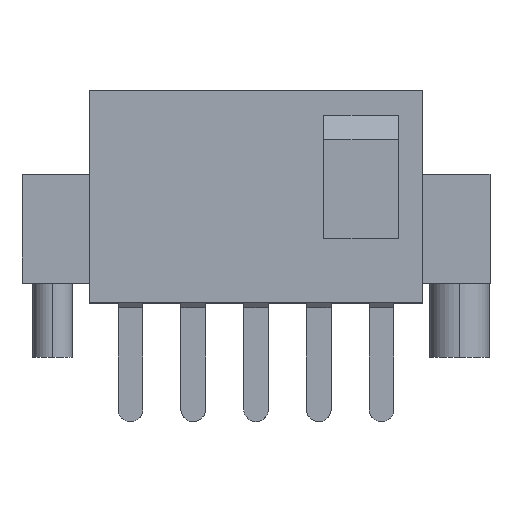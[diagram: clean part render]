
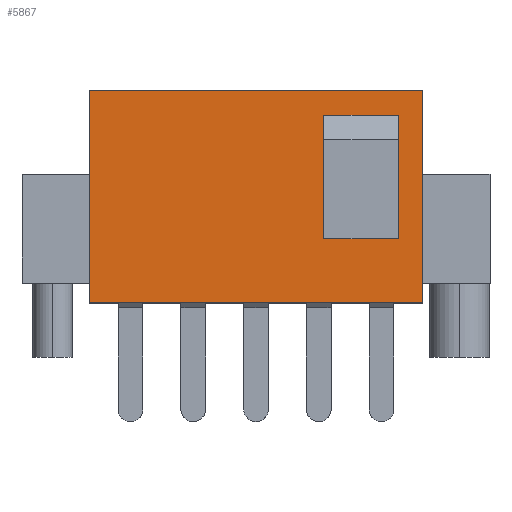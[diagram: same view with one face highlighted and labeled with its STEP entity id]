
A CAD part, top view. The second image highlights one B-rep face of the part: STEP entity #5867.
In plain terms, the highlighted planar face has unit normal (0, 0, 1).
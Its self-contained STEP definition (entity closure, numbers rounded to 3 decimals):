
#382 = LINE ( 'NONE', #7896, #5735 ) ;
#529 = DIRECTION ( 'NONE',  ( 0., 0., 1. ) ) ;
#833 = CARTESIAN_POINT ( 'NONE',  ( -1.27, 0., 0. ) ) ;
#865 = LINE ( 'NONE', #1233, #7560 ) ;
#911 = AXIS2_PLACEMENT_3D ( 'NONE', #6265, #529, #2403 ) ;
#1011 = DIRECTION ( 'NONE',  ( 0., 1., 0. ) ) ;
#1017 = ORIENTED_EDGE ( 'NONE', *, *, #1896, .T. ) ;
#1233 = CARTESIAN_POINT ( 'NONE',  ( 3.48, 1.3, 0. ) ) ;
#1383 = EDGE_CURVE ( 'NONE', #3941, #3155, #4018, .T. ) ;
#1415 = EDGE_LOOP ( 'NONE', ( #6039, #1017, #4004, #7696 ) ) ;
#1517 = CARTESIAN_POINT ( 'NONE',  ( 4.98, 3.8, 0. ) ) ;
#1586 = EDGE_CURVE ( 'NONE', #8098, #3155, #5701, .T. ) ;
#1595 = LINE ( 'NONE', #4128, #4231 ) ;
#1642 = VERTEX_POINT ( 'NONE', #3753 ) ;
#1711 = ORIENTED_EDGE ( 'NONE', *, *, #4709, .T. ) ;
#1896 = EDGE_CURVE ( 'NONE', #8098, #4234, #865, .T. ) ;
#2231 = ORIENTED_EDGE ( 'NONE', *, *, #3669, .F. ) ;
#2403 = DIRECTION ( 'NONE',  ( 1., 0., 0. ) ) ;
#2454 = CARTESIAN_POINT ( 'NONE',  ( 5.48, 0., 0. ) ) ;
#2478 = CARTESIAN_POINT ( 'NONE',  ( 3.48, 3.8, 0. ) ) ;
#2663 = VECTOR ( 'NONE', #5317, 1000. ) ;
#2675 = VECTOR ( 'NONE', #4314, 1000. ) ;
#2797 = VECTOR ( 'NONE', #6371, 1000. ) ;
#3078 = LINE ( 'NONE', #2454, #2675 ) ;
#3155 = VERTEX_POINT ( 'NONE', #1517 ) ;
#3420 = CARTESIAN_POINT ( 'NONE',  ( 3.48, 1.3, 0. ) ) ;
#3669 = EDGE_CURVE ( 'NONE', #4298, #3706, #4768, .T. ) ;
#3706 = VERTEX_POINT ( 'NONE', #6521 ) ;
#3726 = FACE_BOUND ( 'NONE', #1415, .T. ) ;
#3753 = CARTESIAN_POINT ( 'NONE',  ( 5.48, 0., 0. ) ) ;
#3828 = CARTESIAN_POINT ( 'NONE',  ( 4.98, 1.3, 0. ) ) ;
#3843 = VECTOR ( 'NONE', #7706, 1000. ) ;
#3941 = VERTEX_POINT ( 'NONE', #2478 ) ;
#4004 = ORIENTED_EDGE ( 'NONE', *, *, #6813, .T. ) ;
#4018 = LINE ( 'NONE', #7209, #3843 ) ;
#4128 = CARTESIAN_POINT ( 'NONE',  ( 3.48, 1.3, 0. ) ) ;
#4190 = EDGE_LOOP ( 'NONE', ( #2231, #4398, #5194, #1711 ) ) ;
#4231 = VECTOR ( 'NONE', #1011, 1000. ) ;
#4234 = VERTEX_POINT ( 'NONE', #3420 ) ;
#4298 = VERTEX_POINT ( 'NONE', #8114 ) ;
#4314 = DIRECTION ( 'NONE',  ( 0., 1., 0. ) ) ;
#4398 = ORIENTED_EDGE ( 'NONE', *, *, #5052, .F. ) ;
#4433 = VERTEX_POINT ( 'NONE', #833 ) ;
#4709 = EDGE_CURVE ( 'NONE', #1642, #3706, #3078, .T. ) ;
#4744 = LINE ( 'NONE', #6540, #5719 ) ;
#4768 = LINE ( 'NONE', #7127, #2663 ) ;
#5052 = EDGE_CURVE ( 'NONE', #4433, #4298, #382, .T. ) ;
#5194 = ORIENTED_EDGE ( 'NONE', *, *, #6686, .T. ) ;
#5317 = DIRECTION ( 'NONE',  ( 1., 0., 0. ) ) ;
#5333 = DIRECTION ( 'NONE',  ( 0., 1., 0. ) ) ;
#5410 = DIRECTION ( 'NONE',  ( 1., 0., 0. ) ) ;
#5701 = LINE ( 'NONE', #3828, #2797 ) ;
#5713 = PLANE ( 'NONE',  #911 ) ;
#5719 = VECTOR ( 'NONE', #5410, 1000. ) ;
#5735 = VECTOR ( 'NONE', #5333, 1000. ) ;
#5867 = ADVANCED_FACE ( 'NONE', ( #7576, #3726 ), #5713, .T. ) ;
#6039 = ORIENTED_EDGE ( 'NONE', *, *, #1586, .F. ) ;
#6128 = CARTESIAN_POINT ( 'NONE',  ( 4.98, 1.3, 0. ) ) ;
#6265 = CARTESIAN_POINT ( 'NONE',  ( 2.54, 0., 0. ) ) ;
#6371 = DIRECTION ( 'NONE',  ( 0., 1., 0. ) ) ;
#6521 = CARTESIAN_POINT ( 'NONE',  ( 5.48, 4.3, 0. ) ) ;
#6540 = CARTESIAN_POINT ( 'NONE',  ( 2.54, 0., 0. ) ) ;
#6686 = EDGE_CURVE ( 'NONE', #4433, #1642, #4744, .T. ) ;
#6813 = EDGE_CURVE ( 'NONE', #4234, #3941, #1595, .T. ) ;
#7127 = CARTESIAN_POINT ( 'NONE',  ( 2.54, 4.3, 0. ) ) ;
#7209 = CARTESIAN_POINT ( 'NONE',  ( 2.362, 3.8, 0. ) ) ;
#7560 = VECTOR ( 'NONE', #8006, 1000. ) ;
#7576 = FACE_OUTER_BOUND ( 'NONE', #4190, .T. ) ;
#7696 = ORIENTED_EDGE ( 'NONE', *, *, #1383, .T. ) ;
#7706 = DIRECTION ( 'NONE',  ( 1., 0., 0. ) ) ;
#7896 = CARTESIAN_POINT ( 'NONE',  ( -1.27, 0., 0. ) ) ;
#8006 = DIRECTION ( 'NONE',  ( -1., 0., 0. ) ) ;
#8098 = VERTEX_POINT ( 'NONE', #6128 ) ;
#8114 = CARTESIAN_POINT ( 'NONE',  ( -1.27, 4.3, 0. ) ) ;
